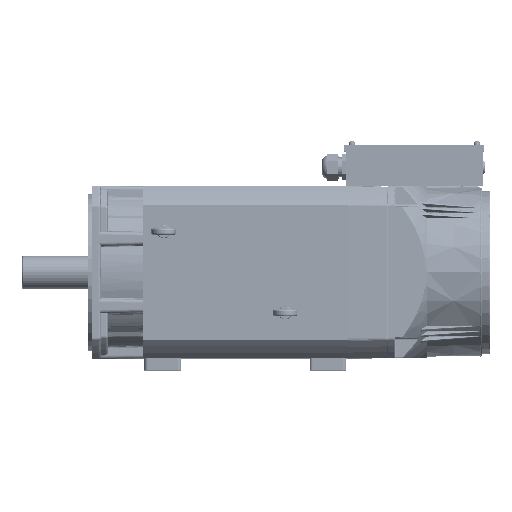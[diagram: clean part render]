
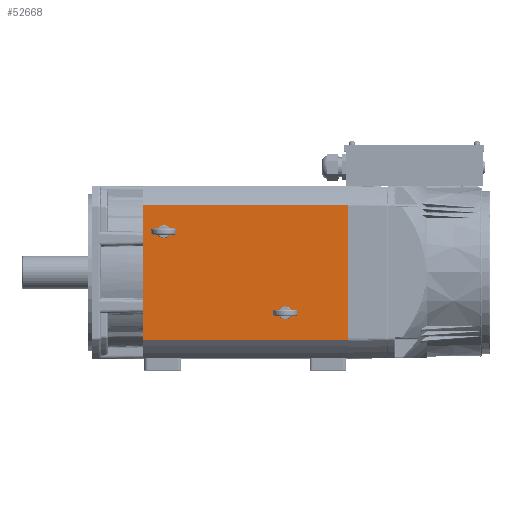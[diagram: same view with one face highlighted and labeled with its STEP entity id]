
A CAD part, top view. The second image highlights one B-rep face of the part: STEP entity #52668.
In plain terms, the highlighted planar face has unit normal (0, 0, 1) as drawn and (0, -1, 0) by its records, which use the part's own axes.
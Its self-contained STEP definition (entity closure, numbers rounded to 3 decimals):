
#163 = LINE ( 'NONE', #84464, #123106 ) ;
#7832 = CARTESIAN_POINT ( 'NONE',  ( 46.5, -98.5, 159.6 ) ) ;
#11399 = LINE ( 'NONE', #93291, #215485 ) ;
#11651 = FACE_BOUND ( 'NONE', #100086, .T. ) ;
#14866 = CARTESIAN_POINT ( 'NONE',  ( 46.5, -98.5, 163. ) ) ;
#19985 = EDGE_CURVE ( 'NONE', #171395, #199556, #20661, .T. ) ;
#20661 = CIRCLE ( 'NONE', #69755, 3.4 ) ;
#21790 = DIRECTION ( 'NONE',  ( 0., 0., -1. ) ) ;
#24133 = CARTESIAN_POINT ( 'NONE',  ( 76.959, -98.5, 155. ) ) ;
#25280 = EDGE_LOOP ( 'NONE', ( #147129, #63593 ) ) ;
#27809 = ORIENTED_EDGE ( 'NONE', *, *, #196955, .T. ) ;
#29763 = CIRCLE ( 'NONE', #146013, 3.4 ) ;
#35691 = EDGE_CURVE ( 'NONE', #199556, #171395, #29763, .T. ) ;
#37825 = FACE_BOUND ( 'NONE', #25280, .T. ) ;
#47461 = LINE ( 'NONE', #159758, #52667 ) ;
#48565 = EDGE_LOOP ( 'NONE', ( #71654, #188714, #173498, #27809 ) ) ;
#52667 = VECTOR ( 'NONE', #94606, 1000. ) ;
#52668 = ADVANCED_FACE ( 'NONE', ( #37825, #11651, #63966 ), #53049, .F. ) ;
#52789 = DIRECTION ( 'NONE',  ( 0., 0., -1. ) ) ;
#53049 = PLANE ( 'NONE',  #70044 ) ;
#54156 = VERTEX_POINT ( 'NONE', #201569 ) ;
#63593 = ORIENTED_EDGE ( 'NONE', *, *, #125408, .F. ) ;
#63966 = FACE_OUTER_BOUND ( 'NONE', #48565, .T. ) ;
#64322 = EDGE_CURVE ( 'NONE', #144821, #145874, #163, .T. ) ;
#66531 = DIRECTION ( 'NONE',  ( 0., 0., -1. ) ) ;
#69755 = AXIS2_PLACEMENT_3D ( 'NONE', #189109, #171511, #21790 ) ;
#70044 = AXIS2_PLACEMENT_3D ( 'NONE', #151866, #204446, #135074 ) ;
#71654 = ORIENTED_EDGE ( 'NONE', *, *, #64322, .T. ) ;
#75877 = DIRECTION ( 'NONE',  ( 0., 0., -1. ) ) ;
#77753 = AXIS2_PLACEMENT_3D ( 'NONE', #201832, #198970, #66531 ) ;
#84464 = CARTESIAN_POINT ( 'NONE',  ( 76.959, -98.5, 0. ) ) ;
#85788 = EDGE_CURVE ( 'NONE', #102255, #145874, #86452, .T. ) ;
#86452 = LINE ( 'NONE', #24133, #209482 ) ;
#87856 = CARTESIAN_POINT ( 'NONE',  ( -46.5, -98.5, 24. ) ) ;
#93291 = CARTESIAN_POINT ( 'NONE',  ( 76.959, -98.5, 235. ) ) ;
#94606 = DIRECTION ( 'NONE',  ( 0., 0., -1. ) ) ;
#98785 = DIRECTION ( 'NONE',  ( 0., 0., -1. ) ) ;
#100086 = EDGE_LOOP ( 'NONE', ( #167672, #141989 ) ) ;
#102255 = VERTEX_POINT ( 'NONE', #204512 ) ;
#109385 = DIRECTION ( 'NONE',  ( 1., 0., 0. ) ) ;
#123106 = VECTOR ( 'NONE', #130657, 1000. ) ;
#125360 = AXIS2_PLACEMENT_3D ( 'NONE', #87856, #154491, #52789 ) ;
#125408 = EDGE_CURVE ( 'NONE', #203339, #193063, #125918, .T. ) ;
#125918 = CIRCLE ( 'NONE', #77753, 3.4 ) ;
#129121 = CIRCLE ( 'NONE', #125360, 3.4 ) ;
#130657 = DIRECTION ( 'NONE',  ( 1., 0., 0. ) ) ;
#135074 = DIRECTION ( 'NONE',  ( -1., 0., 0. ) ) ;
#141989 = ORIENTED_EDGE ( 'NONE', *, *, #19985, .F. ) ;
#144821 = VERTEX_POINT ( 'NONE', #147657 ) ;
#145683 = DIRECTION ( 'NONE',  ( 0., -1., 0. ) ) ;
#145874 = VERTEX_POINT ( 'NONE', #188343 ) ;
#146013 = AXIS2_PLACEMENT_3D ( 'NONE', #14866, #145683, #98785 ) ;
#147129 = ORIENTED_EDGE ( 'NONE', *, *, #168848, .F. ) ;
#147657 = CARTESIAN_POINT ( 'NONE',  ( -76.959, -98.5, 0. ) ) ;
#151866 = CARTESIAN_POINT ( 'NONE',  ( 76.959, -98.5, 155. ) ) ;
#154491 = DIRECTION ( 'NONE',  ( 0., -1., 0. ) ) ;
#159758 = CARTESIAN_POINT ( 'NONE',  ( -76.959, -98.5, 155. ) ) ;
#167672 = ORIENTED_EDGE ( 'NONE', *, *, #35691, .F. ) ;
#168848 = EDGE_CURVE ( 'NONE', #193063, #203339, #129121, .T. ) ;
#171395 = VERTEX_POINT ( 'NONE', #173724 ) ;
#171511 = DIRECTION ( 'NONE',  ( 0., -1., 0. ) ) ;
#173498 = ORIENTED_EDGE ( 'NONE', *, *, #186403, .F. ) ;
#173724 = CARTESIAN_POINT ( 'NONE',  ( 46.5, -98.5, 166.4 ) ) ;
#180848 = CARTESIAN_POINT ( 'NONE',  ( -46.5, -98.5, 27.4 ) ) ;
#186403 = EDGE_CURVE ( 'NONE', #54156, #102255, #11399, .T. ) ;
#188343 = CARTESIAN_POINT ( 'NONE',  ( 76.959, -98.5, 0. ) ) ;
#188714 = ORIENTED_EDGE ( 'NONE', *, *, #85788, .F. ) ;
#189109 = CARTESIAN_POINT ( 'NONE',  ( 46.5, -98.5, 163. ) ) ;
#193063 = VERTEX_POINT ( 'NONE', #216288 ) ;
#196955 = EDGE_CURVE ( 'NONE', #54156, #144821, #47461, .T. ) ;
#198970 = DIRECTION ( 'NONE',  ( 0., -1., 0. ) ) ;
#199556 = VERTEX_POINT ( 'NONE', #7832 ) ;
#201569 = CARTESIAN_POINT ( 'NONE',  ( -76.959, -98.5, 235. ) ) ;
#201832 = CARTESIAN_POINT ( 'NONE',  ( -46.5, -98.5, 24. ) ) ;
#203339 = VERTEX_POINT ( 'NONE', #180848 ) ;
#204446 = DIRECTION ( 'NONE',  ( 0., 1., 0. ) ) ;
#204512 = CARTESIAN_POINT ( 'NONE',  ( 76.959, -98.5, 235. ) ) ;
#209482 = VECTOR ( 'NONE', #75877, 1000. ) ;
#215485 = VECTOR ( 'NONE', #109385, 1000. ) ;
#216288 = CARTESIAN_POINT ( 'NONE',  ( -46.5, -98.5, 20.6 ) ) ;
